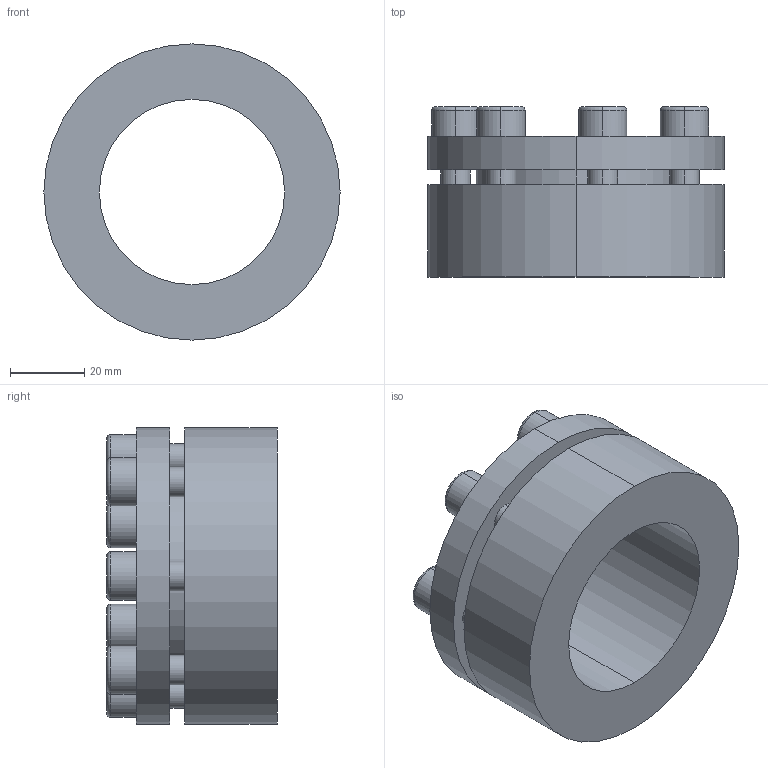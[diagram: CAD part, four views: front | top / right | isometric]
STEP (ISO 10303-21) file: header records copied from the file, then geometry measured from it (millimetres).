
FILE_DESCRIPTION (( 'STEP AP203' ), '1' );
FILE_NAME ('PL-H1 50-80.STEP', '2021-10-23T00:54:39', ( '' ), ( '' ), 'SwSTEP 2.0', 'SolidWorks 2018', '' );
FILE_SCHEMA (( 'CONFIG_CONTROL_DESIGN' ));
Length unit declared in the file: millimetre
Products named in the file (1): PL-H1 50-80
Bounding box: 80 x 46 x 80 mm (x, y, z)
Volume: 113358.9 mm3; surface area: 29534.7 mm2
Topology: 1 solids, 1 shells, 110 faces, 262 edges, 170 vertices
Faces by surface type: plane 60, cylinder 36, torus 14
Entity records: 3303 total; most frequent: DIRECTION 584, CARTESIAN_POINT 543, ORIENTED_EDGE 524, EDGE_CURVE 262, AXIS2_PLACEMENT_3D 211, VERTEX_POINT 170, VECTOR 162, LINE 162
